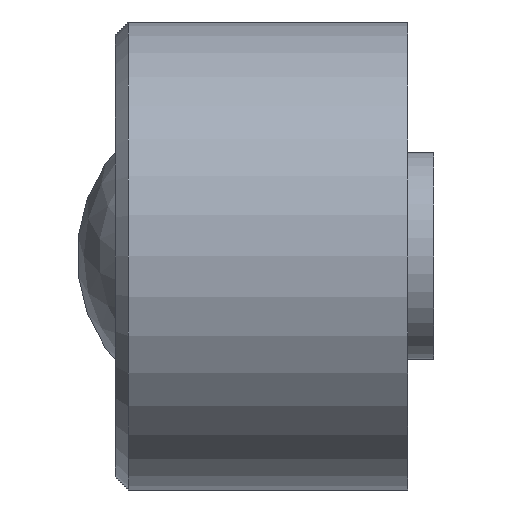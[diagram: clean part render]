
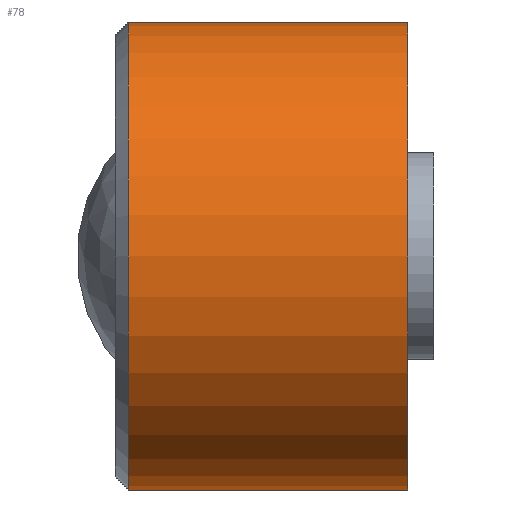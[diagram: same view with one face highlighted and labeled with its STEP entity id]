
A CAD part, left-side view. The second image highlights one B-rep face of the part: STEP entity #78.
In plain terms, the highlighted cylindrical face has radius 18 mm (diameter 36 mm), a full revolution.
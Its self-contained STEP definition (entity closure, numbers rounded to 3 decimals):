
#78 = ADVANCED_FACE( '', ( #99, #100, #101 ), #102, .T. );
#99 = FACE_OUTER_BOUND( '', #141, .T. );
#100 = FACE_BOUND( '', #142, .T. );
#101 = FACE_OUTER_BOUND( '', #143, .T. );
#102 = CYLINDRICAL_SURFACE( '', #144, 18. );
#141 = EDGE_LOOP( '', ( #189 ) );
#142 = EDGE_LOOP( '', ( #190 ) );
#143 = EDGE_LOOP( '', ( #191 ) );
#144 = AXIS2_PLACEMENT_3D( '', #192, #193, #194 );
#189 = ORIENTED_EDGE( '', *, *, #249, .F. );
#190 = ORIENTED_EDGE( '', *, *, #250, .F. );
#191 = ORIENTED_EDGE( '', *, *, #251, .T. );
#192 = CARTESIAN_POINT( '', ( 0., 0., 0. ) );
#193 = DIRECTION( '', ( 0., 1., 0. ) );
#194 = DIRECTION( '', ( 0., 0., -1. ) );
#249 = EDGE_CURVE( '', #267, #267, #268, .T. );
#250 = EDGE_CURVE( '', #269, #269, #270, .T. );
#251 = EDGE_CURVE( '', #271, #271, #272, .T. );
#267 = VERTEX_POINT( '', #293 );
#268 = CIRCLE( '', #294, 18. );
#269 = VERTEX_POINT( '', #295 );
#270 = B_SPLINE_CURVE_WITH_KNOTS( '', 3, ( #296, #297, #298, #299, #300, #301, #302, #303, #304, #305, #306, #307, #308, #309, #310, #311, #312, #313, #314, #315, #316, #317, #318, #319, #320, #321, #322, #323, #324, #325, #326, #327, #328, #329, #330, #331, #332, #333, #334, #335, #336, #337, #338, #339, #340, #341, #342, #343, #344, #345, #346, #347, #348, #349, #350, #351, #352, #353, #354, #355, #356, #357, #358, #359, #360, #361, #362, #363, #364, #365, #366, #367, #368, #369 ), .UNSPECIFIED., .T., .F., ( 2, 2, 2, 2, 2, 2, 2, 2, 2, 2, 2, 2, 2, 2, 2, 2, 2, 2, 2, 2, 2, 2, 2, 2, 2, 2, 2, 2, 2, 2, 2, 2, 2, 2, 2, 2, 2, 2, 2 ), ( -0.001, 0., 0.001, 0.002, 0.003, 0.004, 0.005, 0.006, 0.006, 0.007, 0.008, 0.009, 0.01, 0.011, 0.012, 0.013, 0.014, 0.015, 0.015, 0.016, 0.017, 0.018, 0.019, 0.02, 0.021, 0.022, 0.023, 0.023, 0.024, 0.025, 0.026, 0.027, 0.027, 0.028, 0.028, 0.029, 0.03, 0.031, 0.032 ), .UNSPECIFIED. );
#271 = VERTEX_POINT( '', #370 );
#272 = CIRCLE( '', #371, 18. );
#293 = CARTESIAN_POINT( '', ( 0., 2., -18. ) );
#294 = AXIS2_PLACEMENT_3D( '', #396, #397, #398 );
#295 = CARTESIAN_POINT( '', ( 17.292, 15., 5. ) );
#296 = CARTESIAN_POINT( '', ( 17.292, 15.332, 5. ) );
#297 = CARTESIAN_POINT( '', ( 17.292, 14.668, 5. ) );
#298 = CARTESIAN_POINT( '', ( 17.301, 14.342, 4.967 ) );
#299 = CARTESIAN_POINT( '', ( 17.337, 13.701, 4.839 ) );
#300 = CARTESIAN_POINT( '', ( 17.365, 13.382, 4.742 ) );
#301 = CARTESIAN_POINT( '', ( 17.431, 12.778, 4.491 ) );
#302 = CARTESIAN_POINT( '', ( 17.471, 12.491, 4.337 ) );
#303 = CARTESIAN_POINT( '', ( 17.557, 11.949, 3.974 ) );
#304 = CARTESIAN_POINT( '', ( 17.603, 11.693, 3.765 ) );
#305 = CARTESIAN_POINT( '', ( 17.695, 11.235, 3.306 ) );
#306 = CARTESIAN_POINT( '', ( 17.741, 11.028, 3.055 ) );
#307 = CARTESIAN_POINT( '', ( 17.826, 10.663, 2.509 ) );
#308 = CARTESIAN_POINT( '', ( 17.865, 10.508, 2.221 ) );
#309 = CARTESIAN_POINT( '', ( 17.913, 10.321, 1.77 ) );
#310 = CARTESIAN_POINT( '', ( 17.928, 10.266, 1.616 ) );
#311 = CARTESIAN_POINT( '', ( 17.953, 10.17, 1.303 ) );
#312 = CARTESIAN_POINT( '', ( 17.965, 10.129, 1.141 ) );
#313 = CARTESIAN_POINT( '', ( 17.991, 10.032, 0.657 ) );
#314 = CARTESIAN_POINT( '', ( 18., 10., 0.331 ) );
#315 = CARTESIAN_POINT( '', ( 18., 10., -0.325 ) );
#316 = CARTESIAN_POINT( '', ( 17.991, 10.033, -0.658 ) );
#317 = CARTESIAN_POINT( '', ( 17.956, 10.161, -1.301 ) );
#318 = CARTESIAN_POINT( '', ( 17.93, 10.256, -1.613 ) );
#319 = CARTESIAN_POINT( '', ( 17.865, 10.508, -2.221 ) );
#320 = CARTESIAN_POINT( '', ( 17.826, 10.664, -2.511 ) );
#321 = CARTESIAN_POINT( '', ( 17.742, 11.025, -3.051 ) );
#322 = CARTESIAN_POINT( '', ( 17.696, 11.234, -3.305 ) );
#323 = CARTESIAN_POINT( '', ( 17.603, 11.696, -3.767 ) );
#324 = CARTESIAN_POINT( '', ( 17.557, 11.947, -3.973 ) );
#325 = CARTESIAN_POINT( '', ( 17.471, 12.487, -4.335 ) );
#326 = CARTESIAN_POINT( '', ( 17.431, 12.779, -4.492 ) );
#327 = CARTESIAN_POINT( '', ( 17.365, 13.382, -4.742 ) );
#328 = CARTESIAN_POINT( '', ( 17.338, 13.694, -4.838 ) );
#329 = CARTESIAN_POINT( '', ( 17.31, 14.177, -4.935 ) );
#330 = CARTESIAN_POINT( '', ( 17.303, 14.342, -4.959 ) );
#331 = CARTESIAN_POINT( '', ( 17.294, 14.67, -4.992 ) );
#332 = CARTESIAN_POINT( '', ( 17.292, 14.834, -5. ) );
#333 = CARTESIAN_POINT( '', ( 17.292, 15.325, -5. ) );
#334 = CARTESIAN_POINT( '', ( 17.301, 15.652, -4.968 ) );
#335 = CARTESIAN_POINT( '', ( 17.338, 16.302, -4.839 ) );
#336 = CARTESIAN_POINT( '', ( 17.364, 16.615, -4.743 ) );
#337 = CARTESIAN_POINT( '', ( 17.431, 17.217, -4.493 ) );
#338 = CARTESIAN_POINT( '', ( 17.471, 17.51, -4.337 ) );
#339 = CARTESIAN_POINT( '', ( 17.557, 18.052, -3.974 ) );
#340 = CARTESIAN_POINT( '', ( 17.603, 18.302, -3.768 ) );
#341 = CARTESIAN_POINT( '', ( 17.695, 18.764, -3.308 ) );
#342 = CARTESIAN_POINT( '', ( 17.741, 18.973, -3.052 ) );
#343 = CARTESIAN_POINT( '', ( 17.826, 19.335, -2.513 ) );
#344 = CARTESIAN_POINT( '', ( 17.864, 19.489, -2.226 ) );
#345 = CARTESIAN_POINT( '', ( 17.93, 19.743, -1.617 ) );
#346 = CARTESIAN_POINT( '', ( 17.956, 19.838, -1.303 ) );
#347 = CARTESIAN_POINT( '', ( 17.982, 19.934, -0.823 ) );
#348 = CARTESIAN_POINT( '', ( 17.989, 19.959, -0.661 ) );
#349 = CARTESIAN_POINT( '', ( 17.998, 19.992, -0.333 ) );
#350 = CARTESIAN_POINT( '', ( 18., 20., -0.167 ) );
#351 = CARTESIAN_POINT( '', ( 18., 20., 0.328 ) );
#352 = CARTESIAN_POINT( '', ( 17.991, 19.968, 0.653 ) );
#353 = CARTESIAN_POINT( '', ( 17.956, 19.84, 1.297 ) );
#354 = CARTESIAN_POINT( '', ( 17.93, 19.743, 1.616 ) );
#355 = CARTESIAN_POINT( '', ( 17.865, 19.493, 2.219 ) );
#356 = CARTESIAN_POINT( '', ( 17.827, 19.339, 2.506 ) );
#357 = CARTESIAN_POINT( '', ( 17.741, 18.974, 3.052 ) );
#358 = CARTESIAN_POINT( '', ( 17.696, 18.766, 3.304 ) );
#359 = CARTESIAN_POINT( '', ( 17.627, 18.423, 3.649 ) );
#360 = CARTESIAN_POINT( '', ( 17.604, 18.302, 3.758 ) );
#361 = CARTESIAN_POINT( '', ( 17.558, 18.05, 3.965 ) );
#362 = CARTESIAN_POINT( '', ( 17.536, 17.918, 4.064 ) );
#363 = CARTESIAN_POINT( '', ( 17.471, 17.51, 4.336 ) );
#364 = CARTESIAN_POINT( '', ( 17.431, 17.224, 4.49 ) );
#365 = CARTESIAN_POINT( '', ( 17.365, 16.622, 4.741 ) );
#366 = CARTESIAN_POINT( '', ( 17.338, 16.303, 4.838 ) );
#367 = CARTESIAN_POINT( '', ( 17.301, 15.659, 4.967 ) );
#368 = CARTESIAN_POINT( '', ( 17.292, 15.332, 5. ) );
#369 = CARTESIAN_POINT( '', ( 17.292, 14.668, 5. ) );
#370 = CARTESIAN_POINT( '', ( 0., 23.5, -18. ) );
#371 = AXIS2_PLACEMENT_3D( '', #399, #400, #401 );
#396 = CARTESIAN_POINT( '', ( 0., 2., 0. ) );
#397 = DIRECTION( '', ( 0., -1., 0. ) );
#398 = DIRECTION( '', ( 0., 0., -1. ) );
#399 = CARTESIAN_POINT( '', ( 0., 23.5, 0. ) );
#400 = DIRECTION( '', ( 0., -1., 0. ) );
#401 = DIRECTION( '', ( 0., 0., -1. ) );
